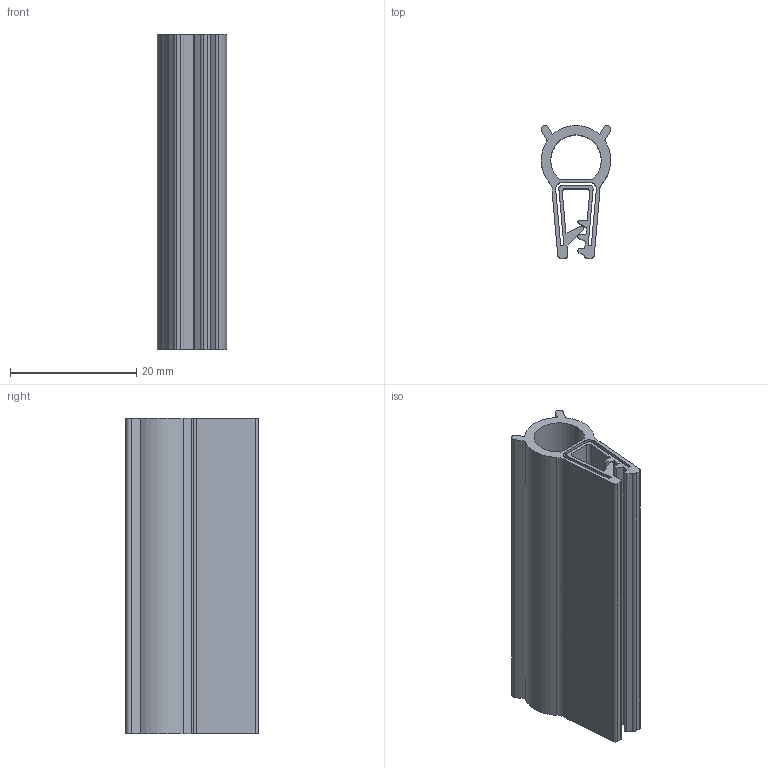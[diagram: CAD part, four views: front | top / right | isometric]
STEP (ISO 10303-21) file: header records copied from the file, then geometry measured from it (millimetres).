
FILE_DESCRIPTION (( 'STEP AP203' ), '1' );
FILE_NAME ('MFT-065.STEP', '2023-02-03T02:40:03', ( 'SJ' ), ( '' ), 'SwSTEP 2.0', 'SolidWorks 2020', '' );
FILE_SCHEMA (( 'CONFIG_CONTROL_DESIGN' ));
Length unit declared in the file: millimetre
Products named in the file (1): MFT-065
Bounding box: 11 x 21 x 50 mm (x, y, z)
Volume: 3906.5 mm3; surface area: 8702.7 mm2
Topology: 1 solids, 1 shells, 68 faces, 198 edges, 132 vertices
Faces by surface type: cylinder 35, plane 33
Entity records: 2357 total; most frequent: DIRECTION 406, CARTESIAN_POINT 399, ORIENTED_EDGE 396, EDGE_CURVE 198, AXIS2_PLACEMENT_3D 139, VERTEX_POINT 132, VECTOR 128, LINE 128
